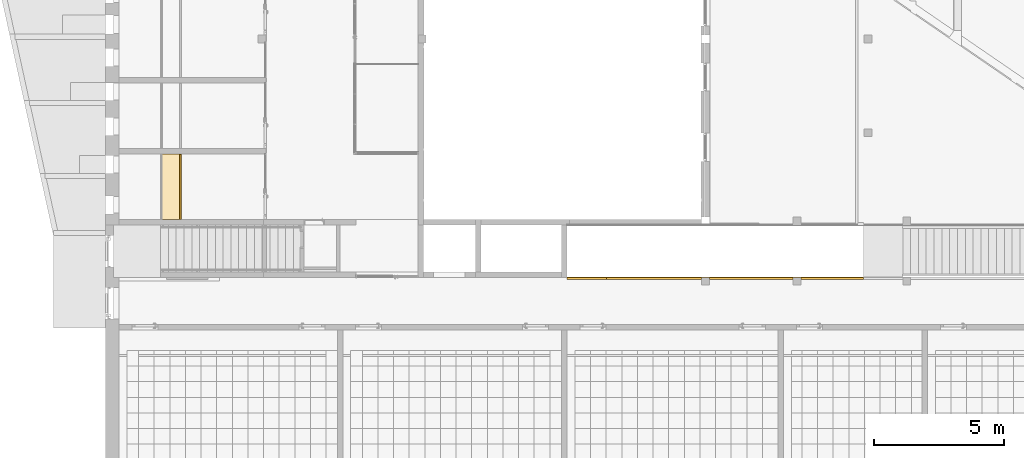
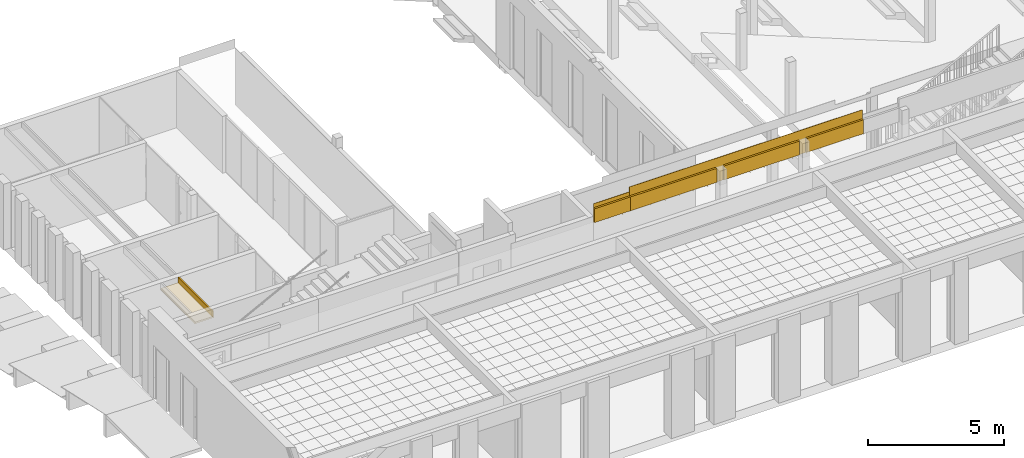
# One storey, part 54 of 79: 4 coverings.
"""IFC2X3 building model written with IfcOpenShell, lengths in millimetres."""

from ifc_helpers import new_model, entity, si_unit, converted_unit, derived_unit, money_unit, direction, frame, origin_with_axes, place, context, subcontext, project, spatial, faceted_brep, material, material_list, type_object, element, save


model = new_model("IFC2X3")

# Units and contexts
model_context = context("Model", 3, precision=0.01, world=origin_with_axes(), true_north=direction((0.0, 1.0)))
body_context = subcontext(model_context, "Body", "Model", "MODEL_VIEW")
ifc_project = project(units=[si_unit("LENGTHUNIT", "METRE", prefix="MILLI"), si_unit("AREAUNIT", "SQUARE_METRE"), si_unit("VOLUMEUNIT", "CUBIC_METRE"), converted_unit("PLANEANGLEUNIT", "DEGREE", entity("IfcPlaneAngleMeasure", 0.0174532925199), si_unit("PLANEANGLEUNIT", "RADIAN"), dimensions=[0, 0, 0, 0, 0, 0, 0]), si_unit("SOLIDANGLEUNIT", "STERADIAN"), money_unit("EUR"), converted_unit("TIMEUNIT", "Year", entity("IfcTimeMeasure", 31556926.0), si_unit("TIMEUNIT", "SECOND"), dimensions=[0, 0, 1, 0, 0, 0, 0]), si_unit("MASSUNIT", "GRAM", prefix="KILO"), si_unit("THERMODYNAMICTEMPERATUREUNIT", "DEGREE_CELSIUS"), si_unit("LUMINOUSINTENSITYUNIT", "LUMEN"), si_unit("ENERGYUNIT", "JOULE", prefix="MEGA"), derived_unit("THERMALCONDUCTANCEUNIT", [(si_unit("POWERUNIT", "WATT"), 1), (si_unit("LENGTHUNIT", "METRE"), -1), (si_unit("THERMODYNAMICTEMPERATUREUNIT", "KELVIN"), -1)]), derived_unit("SPECIFICHEATCAPACITYUNIT", [(si_unit("ENERGYUNIT", "JOULE"), 1), (si_unit("MASSUNIT", "GRAM", prefix="KILO"), -1), (si_unit("THERMODYNAMICTEMPERATUREUNIT", "KELVIN"), -1)]), derived_unit("MASSDENSITYUNIT", [(si_unit("MASSUNIT", "GRAM", prefix="KILO"), 1), (si_unit("VOLUMEUNIT", "CUBIC_METRE"), -1)])], contexts=[model_context])

# Site, building, storey
site_placement = place(None, origin_with_axes())
site = spatial("IfcSite", under=ifc_project, at=site_placement, Name="L.Koidula tn 11b", CompositionType="ELEMENT")
building_placement = place(site_placement, origin_with_axes())
building = spatial("IfcBuilding", under=site, at=building_placement, Name="Rakvere Riigigümnaasium", CompositionType="ELEMENT")
storey_placement = place(building_placement, frame((0.0, 0.0, 3720.0), z_axis=(0.0, 0.0, 1.0), x_axis=(1.0, 0.0, 0.0)))
storey = spatial("IfcBuildingStorey", under=building, at=storey_placement, Name="2.korrus +3,72", CompositionType="ELEMENT", Elevation=3720.0)

# Coverings
ifc_material_1 = material(Name="Karkass")
ifc_material_2 = material(Name="Kipsplaat")
ifc_material_3 = material(Name="Alumiiniumprofiil")
ifc_material_4 = material(Name="Keraamiline plaat valge")
ifc_material_list_1 = material_list([ifc_material_1, ifc_material_2, ifc_material_3, ifc_material_3, ifc_material_4])
covering_type_1 = type_object("IfcCoveringType", Name="SA-Pinnakate-Ker 99", PredefinedType="CEILING")
covering_1_placement = place(storey_placement, frame((64089.998076, 15100.4777458, 2650.0), z_axis=(0.0, 0.0, 1.0), x_axis=(-1.0, 0.0, 0.0)))
element("IfcCovering", 1, at=covering_1_placement, inside=storey, type_object=covering_type_1, material=ifc_material_list_1, Name="Pinnakate-keraamiline", PredefinedType="CEILING", context=body_context, shape_type="Brep", body=[
    faceted_brep([(9592.50000311, 17.5, 0.0), (9592.50000311, 17.5, 12.0), (9587.50000311, 17.5, 12.0), (9587.50000311, 17.5, 0.0), (9592.50000311, 83.5, 0.0), (9592.50000311, 83.5, 12.0), (9587.50000311, 83.5, 12.0), (9587.50000311, 83.5, 0.0)], [[[0, 1, 2, 3]], [[1, 0, 4, 5]], [[2, 1, 5, 6]], [[3, 2, 6, 7]], [[4, 0, 3, 7]], [[5, 4, 7, 6]]]),
    faceted_brep([(5392.50000311, 17.5, 0.0), (5392.50000311, 17.5, 12.0), (5387.50000311, 17.5, 12.0), (5387.50000311, 17.5, 0.0), (5392.50000311, 83.5, 0.0), (5392.50000311, 83.5, 12.0), (5387.50000311, 83.5, 12.0), (5387.50000311, 83.5, 0.0)], [[[0, 1, 2, 3]], [[1, 0, 4, 5]], [[2, 1, 5, 6]], [[3, 2, 6, 7]], [[4, 0, 3, 7]], [[5, 4, 7, 6]]]),
    faceted_brep([(2392.50000311, 17.5, 0.0), (2392.50000311, 17.5, 12.0), (2387.50000311, 17.5, 12.0), (2387.50000311, 17.5, 0.0), (2392.50000311, 83.5, 0.0), (2392.50000311, 83.5, 12.0), (2387.50000311, 83.5, 12.0), (2387.50000311, 83.5, 0.0)], [[[0, 1, 2, 3]], [[1, 0, 4, 5]], [[2, 1, 5, 6]], [[3, 2, 6, 7]], [[4, 0, 3, 7]], [[5, 4, 7, 6]]]),
    faceted_brep([(6209.96326589, 83.5, 54.5), (6209.96326589, 17.5, 54.5), (6209.96326589, 17.5, 675.0), (6209.96326589, 83.5, 675.0), (9869.99808232, 17.5, 54.5), (9869.99808232, 83.5, 54.5), (9869.99808232, 17.5, 675.0), (9869.99808232, 83.5, 675.0)], [[[0, 1, 2, 3]], [[4, 1, 0, 5]], [[1, 4, 6, 2]], [[7, 3, 2, 6]], [[5, 0, 3, 7]], [[4, 5, 7, 6]]]),
    faceted_brep([(2699.99807568, 83.5, 54.5), (2699.99807568, 17.5, 54.5), (2699.99807568, 17.5, 675.0), (2699.99807568, 83.5, 675.0), (5909.96326589, 17.5, 54.5), (5909.96326589, 83.5, 54.5), (5909.96326589, 17.5, 675.0), (5909.96326589, 83.5, 675.0)], [[[0, 1, 2, 3]], [[4, 1, 0, 5]], [[1, 4, 6, 2]], [[2, 6, 7, 3]], [[5, 0, 3, 7]], [[4, 5, 7, 6]]]),
    faceted_brep([(0.0, 83.5, 54.5), (0.0, 17.5, 54.5), (0.0, 17.5, 675.0), (0.0, 83.5, 675.0), (2399.99807568, 17.5, 54.5), (2399.99807568, 83.5, 54.5), (2399.99807568, 17.5, 675.0), (2399.99807568, 83.5, 675.0)], [[[0, 1, 2, 3]], [[4, 1, 0, 5]], [[1, 4, 6, 2]], [[2, 6, 7, 3]], [[5, 0, 3, 7]], [[4, 5, 7, 6]]]),
    faceted_brep([(8992.50000311, 17.5, 0.0), (8992.50000311, 17.5, 12.0), (8987.50000311, 17.5, 12.0), (8987.50000311, 17.5, 0.0), (8992.50000311, 83.5, 0.0), (8992.50000311, 83.5, 12.0), (8987.50000311, 83.5, 12.0), (8987.50000311, 83.5, 0.0)], [[[0, 1, 2, 3]], [[1, 0, 4, 5]], [[2, 1, 5, 6]], [[3, 2, 6, 7]], [[4, 0, 3, 7]], [[5, 4, 7, 6]]]),
    faceted_brep([(8392.50000311, 17.5, 0.0), (8392.50000311, 17.5, 12.0), (8387.50000311, 17.5, 12.0), (8387.50000311, 17.5, 0.0), (8392.50000311, 83.5, 0.0), (8392.50000311, 83.5, 12.0), (8387.50000311, 83.5, 12.0), (8387.50000311, 83.5, 0.0)], [[[0, 1, 2, 3]], [[1, 0, 4, 5]], [[2, 1, 5, 6]], [[3, 2, 6, 7]], [[4, 0, 3, 7]], [[5, 4, 7, 6]]]),
    faceted_brep([(7792.50000311, 17.5, 0.0), (7792.50000311, 17.5, 12.0), (7787.50000311, 17.5, 12.0), (7787.50000311, 17.5, 0.0), (7792.50000311, 83.5, 0.0), (7792.50000311, 83.5, 12.0), (7787.50000311, 83.5, 12.0), (7787.50000311, 83.5, 0.0)], [[[0, 1, 2, 3]], [[1, 0, 4, 5]], [[2, 1, 5, 6]], [[3, 2, 6, 7]], [[4, 0, 3, 7]], [[5, 4, 7, 6]]]),
    faceted_brep([(7192.50000311, 17.5, 0.0), (7192.50000311, 17.5, 12.0), (7187.50000311, 17.5, 12.0), (7187.50000311, 17.5, 0.0), (7192.50000311, 83.5, 0.0), (7192.50000311, 83.5, 12.0), (7187.50000311, 83.5, 12.0), (7187.50000311, 83.5, 0.0)], [[[0, 1, 2, 3]], [[1, 0, 4, 5]], [[2, 1, 5, 6]], [[3, 2, 6, 7]], [[4, 0, 3, 7]], [[5, 4, 7, 6]]]),
    faceted_brep([(6592.50000311, 17.5, 0.0), (6592.50000311, 17.5, 12.0), (6587.50000311, 17.5, 12.0), (6587.50000311, 17.5, 0.0), (6592.50000311, 83.5, 0.0), (6592.50000311, 83.5, 12.0), (6587.50000311, 83.5, 12.0), (6587.50000311, 83.5, 0.0)], [[[0, 1, 2, 3]], [[1, 0, 4, 5]], [[2, 1, 5, 6]], [[3, 2, 6, 7]], [[4, 0, 3, 7]], [[5, 4, 7, 6]]]),
    faceted_brep([(4792.50000311, 17.5, 0.0), (4792.50000311, 17.5, 12.0), (4787.50000311, 17.5, 12.0), (4787.50000311, 17.5, 0.0), (4792.50000311, 83.5, 0.0), (4792.50000311, 83.5, 12.0), (4787.50000311, 83.5, 12.0), (4787.50000311, 83.5, 0.0)], [[[0, 1, 2, 3]], [[1, 0, 4, 5]], [[2, 1, 5, 6]], [[3, 2, 6, 7]], [[4, 0, 3, 7]], [[5, 4, 7, 6]]]),
    faceted_brep([(4192.50000311, 17.5, 0.0), (4192.50000311, 17.5, 12.0), (4187.50000311, 17.5, 12.0), (4187.50000311, 17.5, 0.0), (4192.50000311, 83.5, 0.0), (4192.50000311, 83.5, 12.0), (4187.50000311, 83.5, 12.0), (4187.50000311, 83.5, 0.0)], [[[0, 1, 2, 3]], [[1, 0, 4, 5]], [[2, 1, 5, 6]], [[3, 2, 6, 7]], [[4, 0, 3, 7]], [[5, 4, 7, 6]]]),
    faceted_brep([(3592.50000311, 17.5, 0.0), (3592.50000311, 17.5, 12.0), (3587.50000311, 17.5, 12.0), (3587.50000311, 17.5, 0.0), (3592.50000311, 83.5, 0.0), (3592.50000311, 83.5, 12.0), (3587.50000311, 83.5, 12.0), (3587.50000311, 83.5, 0.0)], [[[0, 1, 2, 3]], [[1, 0, 4, 5]], [[2, 1, 5, 6]], [[3, 2, 6, 7]], [[4, 0, 3, 7]], [[5, 4, 7, 6]]]),
    faceted_brep([(2992.50000311, 17.5, 0.0), (2992.50000311, 17.5, 12.0), (2987.50000311, 17.5, 12.0), (2987.50000311, 17.5, 0.0), (2992.50000311, 83.5, 0.0), (2992.50000311, 83.5, 12.0), (2987.50000311, 83.5, 12.0), (2987.50000311, 83.5, 0.0)], [[[0, 1, 2, 3]], [[1, 0, 4, 5]], [[2, 1, 5, 6]], [[3, 2, 6, 7]], [[4, 0, 3, 7]], [[5, 4, 7, 6]]]),
    faceted_brep([(1792.50000311, 17.5, 0.0), (1792.50000311, 17.5, 12.0), (1787.50000311, 17.5, 12.0), (1787.50000311, 17.5, 0.0), (1792.50000311, 83.5, 0.0), (1792.50000311, 83.5, 12.0), (1787.50000311, 83.5, 12.0), (1787.50000311, 83.5, 0.0)], [[[0, 1, 2, 3]], [[1, 0, 4, 5]], [[2, 1, 5, 6]], [[3, 2, 6, 7]], [[4, 0, 3, 7]], [[5, 4, 7, 6]]]),
    faceted_brep([(1192.50000311, 17.5, 0.0), (1192.50000311, 17.5, 12.0), (1187.50000311, 17.5, 12.0), (1187.50000311, 17.5, 0.0), (1192.50000311, 83.5, 0.0), (1192.50000311, 83.5, 12.0), (1187.50000311, 83.5, 12.0), (1187.50000311, 83.5, 0.0)], [[[0, 1, 2, 3]], [[1, 0, 4, 5]], [[2, 1, 5, 6]], [[3, 2, 6, 7]], [[4, 0, 3, 7]], [[5, 4, 7, 6]]]),
    faceted_brep([(592.500003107, 17.5, 0.0), (592.500003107, 17.5, 12.0), (587.500003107, 17.5, 12.0), (587.500003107, 17.5, 0.0), (592.500003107, 83.5, 0.0), (592.500003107, 83.5, 12.0), (587.500003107, 83.5, 12.0), (587.500003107, 83.5, 0.0)], [[[0, 1, 2, 3]], [[1, 0, 4, 5]], [[2, 1, 5, 6]], [[3, 2, 6, 7]], [[4, 0, 3, 7]], [[5, 4, 7, 6]]]),
    faceted_brep([(9592.50000311, 5.0, 0.0), (9592.50000311, 5.0, 12.0), (9587.50000311, 5.0, 12.0), (9587.50000311, 5.0, 0.0), (9592.50000311, 17.5, 0.0), (9592.50000311, 17.5, 12.0), (9587.50000311, 17.5, 12.0), (9587.50000311, 17.5, 0.0)], [[[0, 1, 2, 3]], [[1, 0, 4, 5]], [[2, 1, 5, 6]], [[3, 2, 6, 7]], [[4, 0, 3, 7]], [[5, 4, 7, 6]]]),
    faceted_brep([(5392.50000311, 5.0, 0.0), (5392.50000311, 5.0, 12.0), (5387.50000311, 5.0, 12.0), (5387.50000311, 5.0, 0.0), (5392.50000311, 17.5, 0.0), (5392.50000311, 17.5, 12.0), (5387.50000311, 17.5, 12.0), (5387.50000311, 17.5, 0.0)], [[[0, 1, 2, 3]], [[1, 0, 4, 5]], [[2, 1, 5, 6]], [[3, 2, 6, 7]], [[4, 0, 3, 7]], [[5, 4, 7, 6]]]),
    faceted_brep([(2392.50000311, 5.0, 0.0), (2392.50000311, 5.0, 12.0), (2387.50000311, 5.0, 12.0), (2387.50000311, 5.0, 0.0), (2392.50000311, 17.5, 0.0), (2392.50000311, 17.5, 12.0), (2387.50000311, 17.5, 12.0), (2387.50000311, 17.5, 0.0)], [[[0, 1, 2, 3]], [[1, 0, 4, 5]], [[2, 1, 5, 6]], [[3, 2, 6, 7]], [[4, 0, 3, 7]], [[5, 4, 7, 6]]]),
    faceted_brep([(6209.96326589, 17.5, 54.5), (6209.96326589, 5.0, 54.5), (6209.96326589, 5.0, 675.0), (6209.96326589, 17.5, 675.0), (9869.99808232, 5.0, 54.5), (9869.99808232, 17.5, 54.5), (9869.99808232, 5.0, 675.0), (9869.99808232, 17.5, 675.0)], [[[0, 1, 2, 3]], [[4, 1, 0, 5]], [[1, 4, 6, 2]], [[7, 3, 2, 6]], [[5, 0, 3, 7]], [[4, 5, 7, 6]]]),
    faceted_brep([(2699.99807568, 17.5, 54.5), (2699.99807568, 5.0, 54.5), (2699.99807568, 5.0, 675.0), (2699.99807568, 17.5, 675.0), (5909.96326589, 5.0, 54.5), (5909.96326589, 17.5, 54.5), (5909.96326589, 5.0, 675.0), (5909.96326589, 17.5, 675.0)], [[[0, 1, 2, 3]], [[4, 1, 0, 5]], [[1, 4, 6, 2]], [[2, 6, 7, 3]], [[5, 0, 3, 7]], [[4, 5, 7, 6]]]),
    faceted_brep([(0.0, 17.5, 54.5), (0.0, 5.0, 54.5), (0.0, 5.0, 675.0), (0.0, 17.5, 675.0), (2399.99807568, 5.0, 54.5), (2399.99807568, 17.5, 54.5), (2399.99807568, 5.0, 675.0), (2399.99807568, 17.5, 675.0)], [[[0, 1, 2, 3]], [[4, 1, 0, 5]], [[1, 4, 6, 2]], [[2, 6, 7, 3]], [[5, 0, 3, 7]], [[4, 5, 7, 6]]]),
    faceted_brep([(8992.50000311, 5.0, 0.0), (8992.50000311, 5.0, 12.0), (8987.50000311, 5.0, 12.0), (8987.50000311, 5.0, 0.0), (8992.50000311, 17.5, 0.0), (8992.50000311, 17.5, 12.0), (8987.50000311, 17.5, 12.0), (8987.50000311, 17.5, 0.0)], [[[0, 1, 2, 3]], [[1, 0, 4, 5]], [[2, 1, 5, 6]], [[3, 2, 6, 7]], [[4, 0, 3, 7]], [[5, 4, 7, 6]]]),
    faceted_brep([(8392.50000311, 5.0, 0.0), (8392.50000311, 5.0, 12.0), (8387.50000311, 5.0, 12.0), (8387.50000311, 5.0, 0.0), (8392.50000311, 17.5, 0.0), (8392.50000311, 17.5, 12.0), (8387.50000311, 17.5, 12.0), (8387.50000311, 17.5, 0.0)], [[[0, 1, 2, 3]], [[1, 0, 4, 5]], [[2, 1, 5, 6]], [[3, 2, 6, 7]], [[4, 0, 3, 7]], [[5, 4, 7, 6]]]),
    faceted_brep([(7792.50000311, 5.0, 0.0), (7792.50000311, 5.0, 12.0), (7787.50000311, 5.0, 12.0), (7787.50000311, 5.0, 0.0), (7792.50000311, 17.5, 0.0), (7792.50000311, 17.5, 12.0), (7787.50000311, 17.5, 12.0), (7787.50000311, 17.5, 0.0)], [[[0, 1, 2, 3]], [[1, 0, 4, 5]], [[2, 1, 5, 6]], [[3, 2, 6, 7]], [[4, 0, 3, 7]], [[5, 4, 7, 6]]]),
    faceted_brep([(7192.50000311, 5.0, 0.0), (7192.50000311, 5.0, 12.0), (7187.50000311, 5.0, 12.0), (7187.50000311, 5.0, 0.0), (7192.50000311, 17.5, 0.0), (7192.50000311, 17.5, 12.0), (7187.50000311, 17.5, 12.0), (7187.50000311, 17.5, 0.0)], [[[0, 1, 2, 3]], [[1, 0, 4, 5]], [[2, 1, 5, 6]], [[3, 2, 6, 7]], [[4, 0, 3, 7]], [[5, 4, 7, 6]]]),
    faceted_brep([(6592.50000311, 5.0, 0.0), (6592.50000311, 5.0, 12.0), (6587.50000311, 5.0, 12.0), (6587.50000311, 5.0, 0.0), (6592.50000311, 17.5, 0.0), (6592.50000311, 17.5, 12.0), (6587.50000311, 17.5, 12.0), (6587.50000311, 17.5, 0.0)], [[[0, 1, 2, 3]], [[1, 0, 4, 5]], [[2, 1, 5, 6]], [[3, 2, 6, 7]], [[4, 0, 3, 7]], [[5, 4, 7, 6]]]),
    faceted_brep([(4792.50000311, 5.0, 0.0), (4792.50000311, 5.0, 12.0), (4787.50000311, 5.0, 12.0), (4787.50000311, 5.0, 0.0), (4792.50000311, 17.5, 0.0), (4792.50000311, 17.5, 12.0), (4787.50000311, 17.5, 12.0), (4787.50000311, 17.5, 0.0)], [[[0, 1, 2, 3]], [[1, 0, 4, 5]], [[2, 1, 5, 6]], [[3, 2, 6, 7]], [[4, 0, 3, 7]], [[5, 4, 7, 6]]]),
    faceted_brep([(4192.50000311, 5.0, 0.0), (4192.50000311, 5.0, 12.0), (4187.50000311, 5.0, 12.0), (4187.50000311, 5.0, 0.0), (4192.50000311, 17.5, 0.0), (4192.50000311, 17.5, 12.0), (4187.50000311, 17.5, 12.0), (4187.50000311, 17.5, 0.0)], [[[0, 1, 2, 3]], [[1, 0, 4, 5]], [[2, 1, 5, 6]], [[3, 2, 6, 7]], [[4, 0, 3, 7]], [[5, 4, 7, 6]]]),
    faceted_brep([(3592.50000311, 5.0, 0.0), (3592.50000311, 5.0, 12.0), (3587.50000311, 5.0, 12.0), (3587.50000311, 5.0, 0.0), (3592.50000311, 17.5, 0.0), (3592.50000311, 17.5, 12.0), (3587.50000311, 17.5, 12.0), (3587.50000311, 17.5, 0.0)], [[[0, 1, 2, 3]], [[1, 0, 4, 5]], [[2, 1, 5, 6]], [[3, 2, 6, 7]], [[4, 0, 3, 7]], [[5, 4, 7, 6]]]),
    faceted_brep([(2992.50000311, 5.0, 0.0), (2992.50000311, 5.0, 12.0), (2987.50000311, 5.0, 12.0), (2987.50000311, 5.0, 0.0), (2992.50000311, 17.5, 0.0), (2992.50000311, 17.5, 12.0), (2987.50000311, 17.5, 12.0), (2987.50000311, 17.5, 0.0)], [[[0, 1, 2, 3]], [[1, 0, 4, 5]], [[2, 1, 5, 6]], [[3, 2, 6, 7]], [[4, 0, 3, 7]], [[5, 4, 7, 6]]]),
    faceted_brep([(1792.50000311, 5.0, 0.0), (1792.50000311, 5.0, 12.0), (1787.50000311, 5.0, 12.0), (1787.50000311, 5.0, 0.0), (1792.50000311, 17.5, 0.0), (1792.50000311, 17.5, 12.0), (1787.50000311, 17.5, 12.0), (1787.50000311, 17.5, 0.0)], [[[0, 1, 2, 3]], [[1, 0, 4, 5]], [[2, 1, 5, 6]], [[3, 2, 6, 7]], [[4, 0, 3, 7]], [[5, 4, 7, 6]]]),
    faceted_brep([(1192.50000311, 5.0, 0.0), (1192.50000311, 5.0, 12.0), (1187.50000311, 5.0, 12.0), (1187.50000311, 5.0, 0.0), (1192.50000311, 17.5, 0.0), (1192.50000311, 17.5, 12.0), (1187.50000311, 17.5, 12.0), (1187.50000311, 17.5, 0.0)], [[[0, 1, 2, 3]], [[1, 0, 4, 5]], [[2, 1, 5, 6]], [[3, 2, 6, 7]], [[4, 0, 3, 7]], [[5, 4, 7, 6]]]),
    faceted_brep([(592.500003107, 5.0, 0.0), (592.500003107, 5.0, 12.0), (587.500003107, 5.0, 12.0), (587.500003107, 5.0, 0.0), (592.500003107, 17.5, 0.0), (592.500003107, 17.5, 12.0), (587.500003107, 17.5, 12.0), (587.500003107, 17.5, 0.0)], [[[0, 1, 2, 3]], [[1, 0, 4, 5]], [[2, 1, 5, 6]], [[3, 2, 6, 7]], [[4, 0, 3, 7]], [[5, 4, 7, 6]]]),
    faceted_brep([(9869.99808232, 0.022224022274, 54.5), (9869.99808232, 0.022224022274, 0.0), (9592.50000311, 0.022224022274, 0.0), (9592.50000311, 0.023131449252, 12.0), (9587.50000311, 0.0231301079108, 12.0), (9587.50000311, 0.022224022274, 0.0), (8992.50000311, 0.022224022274, 0.0), (8992.50000311, 0.0229704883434, 12.0), (8987.50000311, 0.0229691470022, 12.0), (8987.50000311, 0.022224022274, 0.0), (8392.50000311, 0.022224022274, 0.0), (8392.50000311, 0.0228095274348, 12.0), (8387.50000311, 0.0228081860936, 12.0), (8387.50000311, 0.022224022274, 0.0), (7792.50000311, 0.022224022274, 0.0), (7792.50000311, 0.0226485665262, 12.0), (7787.50000311, 0.022647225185, 12.0), (7787.50000311, 0.022224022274, 0.0), (7192.50000311, 0.022224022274, 0.0), (7192.50000311, 0.0224876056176, 12.0), (7187.50000311, 0.0224862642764, 12.0), (7187.50000311, 0.022224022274, 0.0), (6592.50000311, 0.022224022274, 0.0), (6592.50000311, 0.022326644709, 12.0), (6587.50000311, 0.0223253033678, 12.0), (6587.50000311, 0.022224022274, 0.0), (6209.96326589, 0.022224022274, 0.0), (6209.96326589, 0.022224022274, 54.5), (9869.99808232, 5.0, 54.5), (9869.99808232, 5.0, 675.0), (9869.99808232, 0.0213175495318, 675.0), (9869.99808232, 0.0213175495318, 940.0), (9869.99808232, -0.000776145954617, 940.0), (9869.99808232, 0.0, 0.0), (6209.96326589, -0.000779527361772, 0.0), (6587.50000311, 5.0, 0.0), (6592.50000311, 5.0, 0.0), (7187.50000311, 5.0, 0.0), (7192.50000311, 5.0, 0.0), (7787.50000311, 5.0, 0.0), (7792.50000311, 5.0, 0.0), (8387.50000311, 5.0, 0.0), (8392.50000311, 5.0, 0.0), (8987.50000311, 5.0, 0.0), (8992.50000311, 5.0, 0.0), (9587.50000311, 5.0, 0.0), (9592.50000311, 5.0, 0.0), (9592.50000311, 5.0, 12.0), (9587.50000311, 5.0, 12.0), (8992.50000311, 5.0, 12.0), (8987.50000311, 5.0, 12.0), (8392.50000311, 5.0, 12.0), (8387.50000311, 5.0, 12.0), (7792.50000311, 5.0, 12.0), (7787.50000311, 5.0, 12.0), (7192.50000311, 5.0, 12.0), (7187.50000311, 5.0, 12.0), (6592.50000311, 5.0, 12.0), (6587.50000311, 5.0, 12.0), (6209.96326589, -0.000779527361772, 675.0), (6209.96326589, 0.0217802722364, 675.0), (6209.96326589, 5.0, 675.0), (6209.96326589, 5.0, 54.5), (0.0, 0.0114806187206, 940.0), (0.0, -0.000687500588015, 940.0), (5909.96326589, -0.000779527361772, 675.0), (0.0, 0.0, 0.0), (5909.96326589, -0.000779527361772, 0.0), (5909.96326589, 0.0218181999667, 675.0), (2699.99807568, 0.022224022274, 675.0), (0.0, 0.0222240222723, 54.5), (0.0, 0.0222240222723, 0.0), (0.0, 0.0114806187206, 675.0), (0.0, 5.0, 675.0), (0.0, 5.0, 54.5), (2392.50000311, 0.0222240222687, 0.0), (2399.99807568, 0.0222240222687, 0.0), (2699.99807568, 0.022224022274, 0.0), (2987.50000311, 0.022224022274, 0.0), (2987.50000311, 5.0, 0.0), (2992.50000311, 5.0, 0.0), (2992.50000311, 0.022224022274, 0.0), (3587.50000311, 0.022224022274, 0.0), (3587.50000311, 5.0, 0.0), (3592.50000311, 5.0, 0.0), (3592.50000311, 0.022224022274, 0.0), (4187.50000311, 0.022224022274, 0.0), (4187.50000311, 5.0, 0.0), (4192.50000311, 5.0, 0.0), (4192.50000311, 0.022224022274, 0.0), (4787.50000311, 0.022224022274, 0.0), (4787.50000311, 5.0, 0.0), (4792.50000311, 5.0, 0.0), (4792.50000311, 0.022224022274, 0.0), (5387.50000311, 0.022224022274, 0.0), (5387.50000311, 5.0, 0.0), (5392.50000311, 5.0, 0.0), (5392.50000311, 0.022224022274, 0.0), (5909.96326589, 0.022224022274, 0.0), (587.500003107, 0.0222240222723, 0.0), (587.500003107, 5.0, 0.0), (592.500003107, 5.0, 0.0), (592.500003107, 0.0222240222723, 0.0), (1187.50000311, 0.0222240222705, 0.0), (1187.50000311, 5.0, 0.0), (1192.50000311, 5.0, 0.0), (1192.50000311, 0.0222240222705, 0.0), (1787.50000311, 0.0222240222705, 0.0), (1787.50000311, 5.0, 0.0), (1792.50000311, 5.0, 0.0), (1792.50000311, 0.0222240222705, 0.0), (2387.50000311, 0.0222240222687, 0.0), (2387.50000311, 5.0, 0.0), (2392.50000311, 5.0, 0.0), (5909.96326589, 0.022224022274, 54.5), (5909.96326589, 5.0, 54.5), (5909.96326589, 5.0, 675.0), (2699.99807568, 5.0, 675.0), (2399.99807568, 0.022224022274, 675.0), (2399.99807568, 0.0222240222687, 54.5), (2699.99807568, 0.022224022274, 54.5), (5392.50000311, 0.0229463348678, 12.0), (5387.50000311, 0.0229449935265, 12.0), (4792.50000311, 0.0227853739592, 12.0), (4787.50000311, 0.0227840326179, 12.0), (4192.50000311, 0.0226244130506, 12.0), (4187.50000311, 0.0226230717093, 12.0), (3592.50000311, 0.022463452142, 12.0), (3587.50000311, 0.0224621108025, 12.0), (2992.50000311, 0.0223024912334, 12.0), (2987.50000311, 0.0223011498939, 12.0), (2392.50000311, 0.0232709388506, 12.0), (2387.50000311, 0.0232695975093, 12.0), (1792.50000311, 0.023109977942, 12.0), (1787.50000311, 0.0231086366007, 12.0), (1192.50000311, 0.0229490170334, 12.0), (1187.50000311, 0.0229476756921, 12.0), (592.500003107, 0.0227880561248, 12.0), (587.500003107, 0.0227867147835, 12.0), (2399.99807568, 5.0, 675.0), (2399.99807568, 5.0, 54.5), (2987.50000311, 5.0, 12.0), (2992.50000311, 5.0, 12.0), (3587.50000311, 5.0, 12.0), (3592.50000311, 5.0, 12.0), (4187.50000311, 5.0, 12.0), (4192.50000311, 5.0, 12.0), (4787.50000311, 5.0, 12.0), (4792.50000311, 5.0, 12.0), (5387.50000311, 5.0, 12.0), (5392.50000311, 5.0, 12.0), (587.500003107, 5.0, 12.0), (592.500003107, 5.0, 12.0), (1187.50000311, 5.0, 12.0), (1192.50000311, 5.0, 12.0), (1787.50000311, 5.0, 12.0), (1792.50000311, 5.0, 12.0), (2387.50000311, 5.0, 12.0), (2392.50000311, 5.0, 12.0), (2699.99807568, 5.0, 54.5)], [[[0, 1, 2, 3, 4, 5, 6, 7, 8, 9, 10, 11, 12, 13, 14, 15, 16, 17, 18, 19, 20, 21, 22, 23, 24, 25, 26, 27]], [[1, 0, 28, 29, 30, 31, 32, 33]], [[2, 1, 33, 34, 26, 25, 35, 36, 22, 21, 37, 38, 18, 17, 39, 40, 14, 13, 41, 42, 10, 9, 43, 44, 6, 5, 45, 46]], [[2, 46, 47, 3]], [[47, 48, 4, 3]], [[45, 5, 4, 48]], [[6, 44, 49, 7]], [[49, 50, 8, 7]], [[43, 9, 8, 50]], [[10, 42, 51, 11]], [[51, 52, 12, 11]], [[41, 13, 12, 52]], [[14, 40, 53, 15]], [[53, 54, 16, 15]], [[39, 17, 16, 54]], [[18, 38, 55, 19]], [[55, 56, 20, 19]], [[37, 21, 20, 56]], [[22, 36, 57, 23]], [[57, 58, 24, 23]], [[35, 25, 24, 58]], [[26, 34, 59, 60, 61, 62, 27]], [[27, 62, 28, 0]], [[28, 62, 61, 29]], [[29, 61, 60, 30]], [[31, 30, 63]], [[63, 64, 32, 31]], [[65, 59, 34, 33, 32, 64, 66, 67]], [[57, 36, 35, 58]], [[55, 38, 37, 56]], [[53, 40, 39, 54]], [[51, 42, 41, 52]], [[49, 44, 43, 50]], [[47, 46, 45, 48]], [[60, 59, 65, 68]], [[30, 60, 68, 69, 63]], [[70, 71, 66, 64, 63, 72, 73, 74]], [[75, 76, 77, 78, 79, 80, 81, 82, 83, 84, 85, 86, 87, 88, 89, 90, 91, 92, 93, 94, 95, 96, 97, 98, 67, 66, 71, 99, 100, 101, 102, 103, 104, 105, 106, 107, 108, 109, 110, 111, 112, 113]], [[98, 114, 115, 116, 68, 65, 67]], [[69, 68, 116, 117]], [[69, 118, 63]], [[70, 119, 118, 69, 120, 114, 98, 97, 121, 122, 94, 93, 123, 124, 90, 89, 125, 126, 86, 85, 127, 128, 82, 81, 129, 130, 78, 77, 76, 75, 131, 132, 111, 110, 133, 134, 107, 106, 135, 136, 103, 102, 137, 138, 99, 71]], [[63, 118, 72]], [[73, 72, 118, 139]], [[140, 74, 73, 139]], [[70, 74, 140, 119]], [[79, 78, 130, 141]], [[142, 80, 79, 141]], [[81, 80, 142, 129]], [[83, 82, 128, 143]], [[144, 84, 83, 143]], [[85, 84, 144, 127]], [[87, 86, 126, 145]], [[146, 88, 87, 145]], [[89, 88, 146, 125]], [[91, 90, 124, 147]], [[148, 92, 91, 147]], [[93, 92, 148, 123]], [[95, 94, 122, 149]], [[150, 96, 95, 149]], [[97, 96, 150, 121]], [[100, 99, 138, 151]], [[152, 101, 100, 151]], [[102, 101, 152, 137]], [[104, 103, 136, 153]], [[154, 105, 104, 153]], [[106, 105, 154, 135]], [[108, 107, 134, 155]], [[156, 109, 108, 155]], [[110, 109, 156, 133]], [[112, 111, 132, 157]], [[158, 113, 112, 157]], [[75, 113, 158, 131]], [[120, 159, 115, 114]], [[115, 159, 117, 116]], [[159, 120, 69, 117]], [[119, 140, 139, 118]], [[150, 149, 122, 121]], [[148, 147, 124, 123]], [[146, 145, 126, 125]], [[144, 143, 128, 127]], [[142, 141, 130, 129]], [[158, 157, 132, 131]], [[156, 155, 134, 133]], [[154, 153, 136, 135]], [[152, 151, 138, 137]]]),
    faceted_brep([(9869.99808232, -10.0, 0.0), (0.0, -10.0, 0.0), (0.0, 0.0, 0.0), (9869.99808232, 0.0, 0.0), (9869.99808232, -10.0, 1070.0), (0.0, -10.0, 1070.0), (0.0, 0.0, 1070.0), (9869.99808232, 0.0, 1070.0)], [[[0, 1, 2, 3]], [[4, 5, 1, 0]], [[1, 5, 6, 2]], [[3, 2, 6, 7]], [[7, 4, 0, 3]], [[7, 6, 5, 4]]]),
    faceted_brep([(0.0, -15.0, 0.0), (0.0, -10.0, 0.0), (9869.99808232, -10.0, 0.0), (9869.99808232, -15.0, 0.0), (0.0, -15.0, 1070.0), (0.0, -10.0, 1070.0), (9869.99808232, -10.0, 1070.0), (9869.99808232, -15.0, 1070.0)], [[[0, 1, 2, 3]], [[4, 5, 1, 0]], [[1, 5, 6, 2]], [[7, 3, 2, 6]], [[4, 0, 3, 7]], [[5, 4, 7, 6]]]),
])
covering_2_placement = place(storey_placement, frame((54219.9999937, 15100.4777458, 2650.0), z_axis=(0.0, 0.0, 1.0), x_axis=(-1.0, 0.0, 0.0)))
element("IfcCovering", 2, at=covering_2_placement, inside=storey, type_object=covering_type_1, material=ifc_material_list_1, Name="Pinnakate-keraamiline", PredefinedType="CEILING", context=body_context, shape_type="Brep", body=[
    faceted_brep([(922.501920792, 17.5, 0.0), (922.501920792, 17.5, 12.0), (917.501920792, 17.5, 12.0), (917.501920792, 17.5, 0.0), (922.501920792, 83.5, 0.0), (922.501920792, 83.5, 12.0), (917.501920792, 83.5, 12.0), (917.501920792, 83.5, 0.0)], [[[0, 1, 2, 3]], [[1, 0, 4, 5]], [[2, 1, 5, 6]], [[3, 2, 6, 7]], [[4, 0, 3, 7]], [[5, 4, 7, 6]]]),
    faceted_brep([(0.0, 83.5, 54.5), (0.0, 17.5, 54.5), (0.0, 17.5, 675.0), (0.0, 83.5, 675.0), (1510.0, 17.5, 54.5), (1510.0, 83.5, 54.5), (1510.0, 17.5, 675.0), (1510.0, 83.5, 675.0)], [[[0, 1, 2, 3]], [[4, 1, 0, 5]], [[1, 4, 6, 2]], [[7, 3, 2, 6]], [[5, 0, 3, 7]], [[4, 5, 7, 6]]]),
    faceted_brep([(322.501920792, 17.5, 0.0), (322.501920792, 17.5, 12.0), (317.501920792, 17.5, 12.0), (317.501920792, 17.5, 0.0), (322.501920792, 83.5, 0.0), (322.501920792, 83.5, 12.0), (317.501920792, 83.5, 12.0), (317.501920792, 83.5, 0.0)], [[[0, 1, 2, 3]], [[1, 0, 4, 5]], [[2, 1, 5, 6]], [[3, 2, 6, 7]], [[4, 0, 3, 7]], [[5, 4, 7, 6]]]),
    faceted_brep([(922.501920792, 5.0, 0.0), (922.501920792, 5.0, 12.0), (917.501920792, 5.0, 12.0), (917.501920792, 5.0, 0.0), (922.501920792, 17.5, 0.0), (922.501920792, 17.5, 12.0), (917.501920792, 17.5, 12.0), (917.501920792, 17.5, 0.0)], [[[0, 1, 2, 3]], [[1, 0, 4, 5]], [[2, 1, 5, 6]], [[3, 2, 6, 7]], [[4, 0, 3, 7]], [[5, 4, 7, 6]]]),
    faceted_brep([(0.0, 17.5, 54.5), (0.0, 5.0, 54.5), (0.0, 5.0, 675.0), (0.0, 17.5, 675.0), (1510.0, 5.0, 54.5), (1510.0, 17.5, 54.5), (1510.0, 5.0, 675.0), (1510.0, 17.5, 675.0)], [[[0, 1, 2, 3]], [[4, 1, 0, 5]], [[1, 4, 6, 2]], [[7, 3, 2, 6]], [[5, 0, 3, 7]], [[4, 5, 7, 6]]]),
    faceted_brep([(322.501920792, 5.0, 0.0), (322.501920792, 5.0, 12.0), (317.501920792, 5.0, 12.0), (317.501920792, 5.0, 0.0), (322.501920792, 17.5, 0.0), (322.501920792, 17.5, 12.0), (317.501920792, 17.5, 12.0), (317.501920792, 17.5, 0.0)], [[[0, 1, 2, 3]], [[1, 0, 4, 5]], [[2, 1, 5, 6]], [[3, 2, 6, 7]], [[4, 0, 3, 7]], [[5, 4, 7, 6]]]),
    faceted_brep([(1510.0, 0.022224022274, 54.5), (1510.0, 0.022224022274, 0.0), (922.501920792, 0.022224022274, 0.0), (922.501920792, 0.0234533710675, 12.0), (917.501920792, 0.023452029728, 12.0), (917.501920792, 0.022224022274, 0.0), (322.501920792, 0.022224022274, 0.0), (322.501920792, 0.0232924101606, 12.0), (317.501920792, 0.0232910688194, 12.0), (317.501920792, 0.022224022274, 0.0), (0.0, 0.022224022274, 0.0), (0.0, 0.022224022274, 54.5), (1510.0, 5.0, 54.5), (1510.0, 5.0, 675.0), (1510.0, -0.000784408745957, 675.0), (1510.0, 0.0, 0.0), (0.0, 0.0, 0.0), (317.501920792, 5.0, 0.0), (322.501920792, 5.0, 0.0), (917.501920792, 5.0, 0.0), (922.501920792, 5.0, 0.0), (922.501920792, 5.0, 12.0), (917.501920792, 5.0, 12.0), (322.501920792, 5.0, 12.0), (317.501920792, 5.0, 12.0), (0.0, 0.0, 849.856183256), (0.0, 0.0221421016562, 849.856183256), (0.0, 0.0213175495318, 675.0), (0.0, 5.0, 675.0), (0.0, 5.0, 54.5), (919.999998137, 0.0222344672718, 675.0), (919.999998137, -0.000784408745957, 675.0), (919.999998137, -0.000784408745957, 849.856183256), (919.999998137, 0.0222344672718, 849.856183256)], [[[0, 1, 2, 3, 4, 5, 6, 7, 8, 9, 10, 11]], [[1, 0, 12, 13, 14, 15]], [[2, 1, 15, 16, 10, 9, 17, 18, 6, 5, 19, 20]], [[2, 20, 21, 3]], [[21, 22, 4, 3]], [[19, 5, 4, 22]], [[6, 18, 23, 7]], [[23, 24, 8, 7]], [[17, 9, 8, 24]], [[10, 16, 25, 26, 27, 28, 29, 11]], [[11, 29, 12, 0]], [[12, 29, 28, 13]], [[13, 28, 27, 30, 31, 14]], [[14, 31, 32, 25, 16, 15]], [[23, 18, 17, 24]], [[21, 20, 19, 22]], [[25, 32, 33, 26]], [[30, 27, 26, 33]], [[30, 33, 32, 31]]]),
    faceted_brep([(0.0, -10.0, 0.0), (0.0, 0.0, 0.0), (1510.0, 0.0, 0.0), (1510.0, -10.0, 0.0), (0.0, -10.0, 849.856183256), (0.0, 0.0, 849.856183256), (1510.0, 0.0, 849.856183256), (1510.0, -10.0, 849.856183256)], [[[0, 1, 2, 3]], [[4, 5, 1, 0]], [[1, 5, 6, 2]], [[7, 3, 2, 6]], [[4, 0, 3, 7]], [[5, 4, 7, 6]]]),
    faceted_brep([(0.0, -15.0, 0.0), (0.0, -10.0, 0.0), (1510.0, -10.0, 0.0), (1510.0, -15.0, 0.0), (0.0, -15.0, 849.856183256), (0.0, -10.0, 849.856183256), (1510.0, -10.0, 849.856183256), (1510.0, -15.0, 849.856183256)], [[[0, 1, 2, 3]], [[4, 5, 1, 0]], [[1, 5, 6, 2]], [[7, 3, 2, 6]], [[4, 0, 3, 7]], [[5, 4, 7, 6]]]),
])
ifc_material_5 = material(Name="Teras")
ifc_material_6 = material(Name="SKR-02_Kipsplaat")
ifc_material_7 = material(Name="mineraalvill+karkass")
ifc_material_list_2 = material_list([ifc_material_5, ifc_material_6, ifc_material_6, ifc_material_7])
covering_type_2 = type_object("IfcCoveringType", Name="SA-LV-kipsx2+teras 68", PredefinedType="CEILING")
covering_3_placement = place(storey_placement, frame((37900.0000521, 19830.4540601, 2240.0), z_axis=(0.0, 0.0, 1.0), x_axis=(0.0, -1.0, 0.0)))
element("IfcCovering", 3, at=covering_3_placement, inside=storey, type_object=covering_type_2, material=ifc_material_list_2, Name="L-12", PredefinedType="CEILING", context=body_context, shape_type="Brep", body=[
    faceted_brep([(2509.99855059, 0.0, 3.0), (0.0, 0.0, 3.0), (0.0, 0.0, 310.0), (2509.99855059, 0.0, 310.0), (0.0, -3.0, 3.0), (2509.99855059, -3.0, 3.0), (0.0, -3.0, 310.0), (2509.99855059, -3.0, 310.0)], [[[0, 1, 2, 3]], [[4, 1, 0, 5]], [[1, 4, 6, 2]], [[6, 7, 3, 2]], [[5, 0, 3, 7]], [[4, 5, 7, 6]]]),
    faceted_brep([(2509.99855059, -3.0, 15.5), (0.0, -3.0, 15.5), (0.0, -3.0, 310.0), (2509.99855059, -3.0, 310.0), (0.0, -15.5, 15.5), (2509.99855059, -15.5, 15.5), (0.0, -15.5, 310.0), (2509.99855059, -15.5, 310.0)], [[[0, 1, 2, 3]], [[4, 1, 0, 5]], [[1, 4, 6, 2]], [[6, 7, 3, 2]], [[5, 0, 3, 7]], [[4, 5, 7, 6]]]),
    faceted_brep([(2509.99855059, -15.5, 28.0), (0.0, -15.5, 28.0), (0.0, -15.5, 310.0), (2509.99855059, -15.5, 310.0), (0.0, -28.0, 28.0), (2509.99855059, -28.0, 28.0), (0.0, -28.0, 310.0), (2509.99855059, -28.0, 310.0)], [[[0, 1, 2, 3]], [[4, 1, 0, 5]], [[1, 4, 6, 2]], [[6, 7, 3, 2]], [[5, 0, 3, 7]], [[4, 5, 7, 6]]]),
    faceted_brep([(2509.99855059, -28.0, 68.0), (0.0, -28.0, 68.0), (0.0, -28.0, 310.0), (2509.99855059, -28.0, 310.0), (0.0, -68.0, 68.0), (2509.99855059, -68.0, 68.0), (0.0, -68.0, 310.0), (2509.99855059, -68.0, 310.0)], [[[0, 1, 2, 3]], [[4, 1, 0, 5]], [[1, 4, 6, 2]], [[6, 7, 3, 2]], [[5, 0, 3, 7]], [[4, 5, 7, 6]]]),
])
ifc_material_8 = material(Name="Klaasvill")
ifc_material_list_3 = material_list([ifc_material_8, ifc_material_6, ifc_material_6, ifc_material_5])
covering_type_3 = type_object("IfcCoveringType", Name="SA-LV-kipsx2+teras+karkassita 68", PredefinedType="CEILING")
covering_4_placement = place(storey_placement, frame((37900.0000521, 17320.4555095, 2240.0), z_axis=(0.0, 0.0, 1.0), x_axis=(1.0, 0.0, 0.0)))
element("IfcCovering", 4, at=covering_4_placement, inside=storey, type_object=covering_type_3, material=ifc_material_list_3, Name="L-12", PredefinedType="CEILING", context=body_context, shape_type="Brep", body=[
    faceted_brep([(-771.999999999, 2509.99865167, 28.0), (-771.999999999, 2509.99865167, 68.0), (-28.0, 2509.99855059, 68.0), (-28.0, 2509.99855059, 28.0), (-771.999999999, 0.0, 68.0), (-771.999999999, 0.0, 28.0), (-28.0, 0.0, 68.0), (-28.0, 0.0, 28.0)], [[[0, 1, 2, 3]], [[4, 1, 0, 5]], [[1, 4, 6, 2]], [[3, 2, 6, 7]], [[5, 0, 3, 7]], [[4, 5, 7, 6]]]),
    faceted_brep([(-784.499999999, 2509.99865167, 15.5), (-784.499999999, 2509.99865167, 28.0), (-15.5, 2509.99855059, 28.0), (-15.5, 2509.99855059, 15.5), (-784.499999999, 0.0, 28.0), (-784.499999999, 0.0, 15.5), (-15.5, 0.0, 28.0), (-15.5, 0.0, 15.5)], [[[0, 1, 2, 3]], [[4, 1, 0, 5]], [[1, 4, 6, 2]], [[3, 2, 6, 7]], [[5, 0, 3, 7]], [[4, 5, 7, 6]]]),
    faceted_brep([(-796.999999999, 2509.99865167, 3.0), (-796.999999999, 2509.99865167, 15.5), (-3.0, 2509.99855059, 15.5), (-3.0, 2509.99855059, 3.0), (-796.999999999, 0.0, 15.5), (-796.999999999, 0.0, 3.0), (-3.0, 0.0, 15.5), (-3.0, 0.0, 3.0)], [[[0, 1, 2, 3]], [[4, 1, 0, 5]], [[1, 4, 6, 2]], [[3, 2, 6, 7]], [[5, 0, 3, 7]], [[4, 5, 7, 6]]]),
    faceted_brep([(0.0, 0.0, 0.0), (0.0, 2509.99855059, 0.0), (0.0, 2509.99855059, 3.0), (0.0, 0.0, 3.0), (-799.999999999, 0.0, 0.0), (-799.999999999, 2509.99855059, 0.0), (-799.999999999, 2509.99855059, 3.0), (-799.999999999, 0.0, 3.0)], [[[0, 1, 2, 3]], [[0, 4, 5, 1]], [[1, 5, 6, 2]], [[3, 2, 6, 7]], [[4, 0, 3, 7]], [[5, 4, 7, 6]]]),
])

save(model, "model.ifc")
